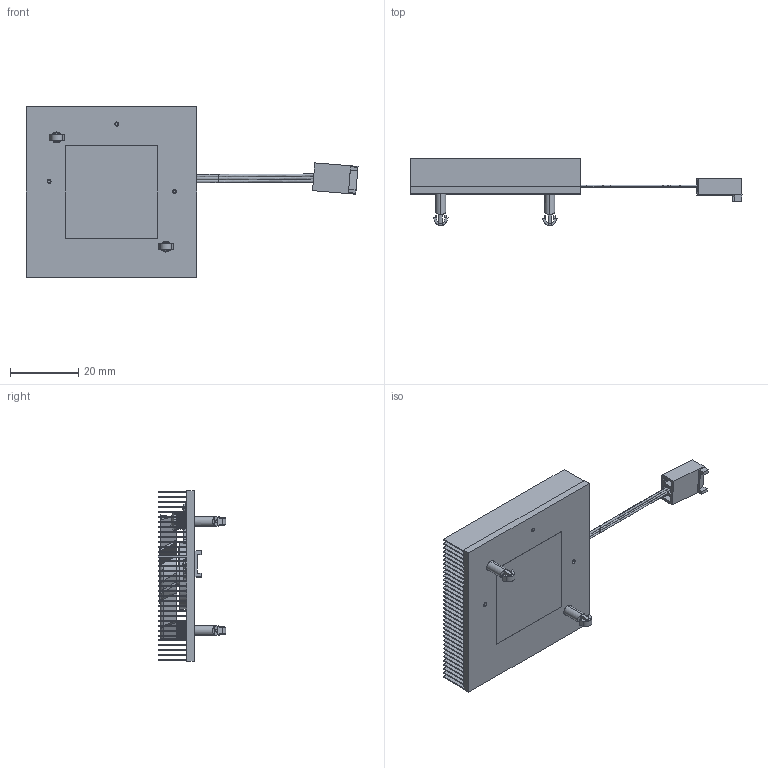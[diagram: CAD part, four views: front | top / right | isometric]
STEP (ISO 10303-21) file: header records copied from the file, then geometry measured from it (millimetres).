
FILE_DESCRIPTION (( 'STEP AP214' ), '1' );
FILE_NAME ('WV05S_A1.STEP', '2023-12-16T01:14:43', ( '' ), ( '' ), 'SwSTEP 2.0', 'SolidWorks 2022', '' );
FILE_SCHEMA (( 'AUTOMOTIVE_DESIGN' ));
Length unit declared in the file: millimetre
Products named in the file (12): HS8143 (PUSH PIN); 22-01-3037.STEP; PCI4018; WV05S_A1; 91800A075_91800A075; HS8416.STEP; HS8143; PB0010-01; JPY04008  3D file_for customer_asm.STEP; HS8143 (SPRING-COMPRESSED)_COMPRESSED; HS8417; HS8255
Assembly tree (14 placements, depth 4):
  WV05S_A1
    PCI4018
    HS8417
      HS8416.STEP
        JPY04008  3D file_for customer_asm.STEP
        22-01-3037.STEP
    HS8143  x2
      HS8143 (PUSH PIN)
      HS8143 (SPRING-COMPRESSED)_COMPRESSED
    91800A075_91800A075  x3
    HS8255
    PB0010-01
Bounding box: 97.35 x 19.8 x 50 mm (x, y, z)
Volume: 8258.8 mm3; surface area: 24107 mm2
Topology: 43 solids, 43 shells, 1250 faces, 3328 edges, 2167 vertices
Faces by surface type: plane 701, bspline 238, cylinder 229, torus 40, cone 30, sphere 12
Entity records: 52830 total; most frequent: CARTESIAN_POINT 22686, ORIENTED_EDGE 5858, DIRECTION 4201, EDGE_CURVE 2929, VERTEX_POINT 1917, VECTOR 1765, LINE 1765, AXIS2_PLACEMENT_3D 1218
